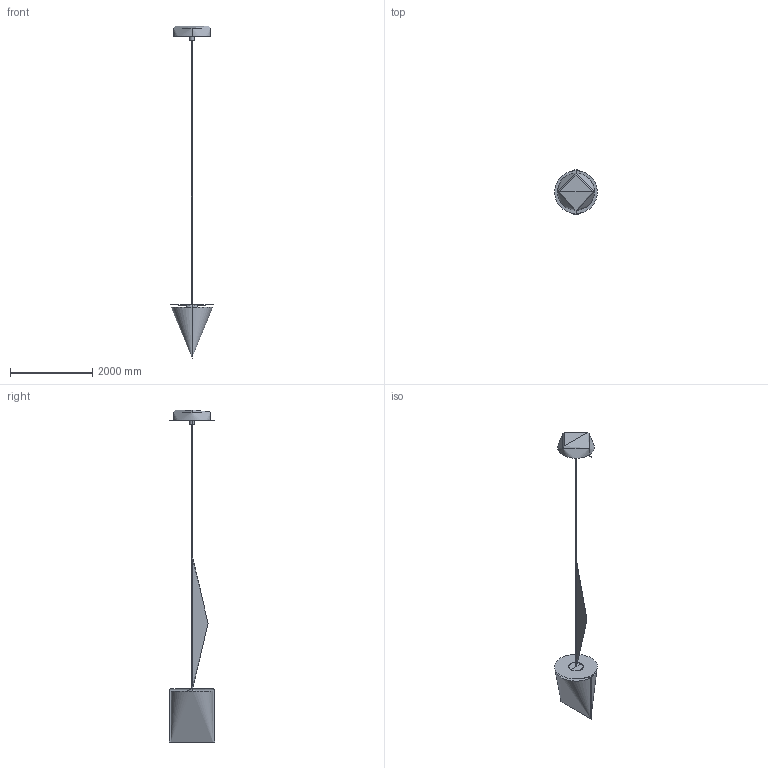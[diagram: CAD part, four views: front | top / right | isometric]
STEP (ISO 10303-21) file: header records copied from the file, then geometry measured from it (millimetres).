
FILE_DESCRIPTION(/* description */ (''),/* implementation_level */ '2;1');
FILE_NAME(/* name */ '1148',/* time_stamp */ '2022-01-18T15:08:47+01:00',/* author */ (''),/* organization */ (''),/* preprocessor_version */ 'ST-DEVELOPER v16.5',/* originating_system */ '',/* authorisation */ '');
FILE_SCHEMA (('CONFIG_CONTROL_DESIGN'));
Length unit declared in the file: centimetre
Products named in the file (1): Document
Bounding box: 1038.11 x 1100 x 8077.11 mm (x, y, z)
Volume: 413905656.8 mm3; surface area: 15325750.8 mm2
Topology: 12 solids, 12 shells, 63 faces, 120 edges, 77 vertices
Faces by surface type: cylinder 28, plane 25, bspline 10
Entity records: 1912 total; most frequent: CARTESIAN_POINT 983, ORIENTED_EDGE 226, EDGE_CURVE 113, VERTEX_POINT 77, EDGE_LOOP 70, ADVANCED_FACE 63, FACE_OUTER_BOUND 63, DIRECTION 62
